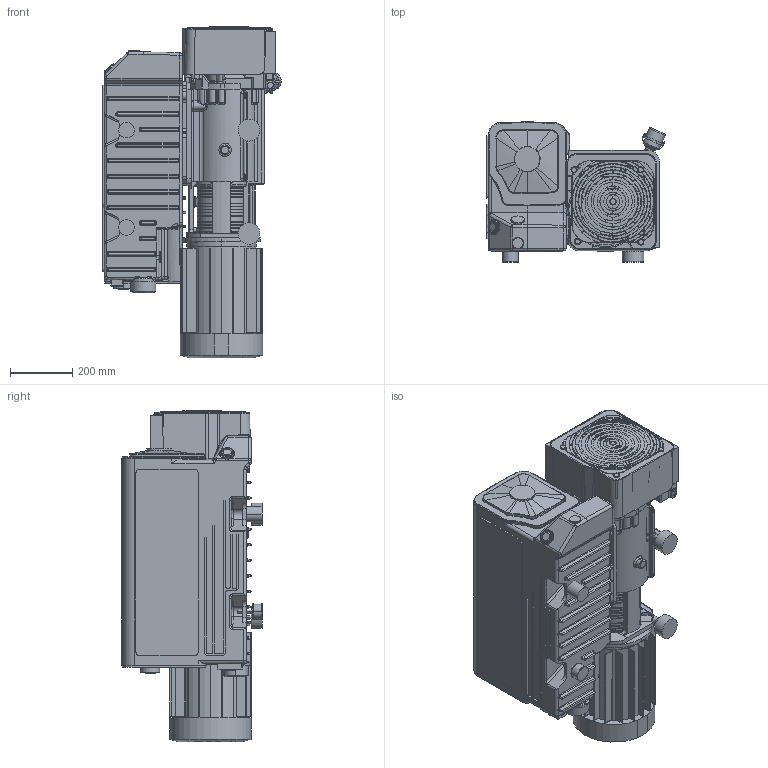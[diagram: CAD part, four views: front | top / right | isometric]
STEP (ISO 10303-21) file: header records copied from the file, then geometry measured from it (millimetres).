
FILE_DESCRIPTION((''),'2;1');
FILE_NAME('PRT0005','2012-07-24T',('LVVCSAVA'),('Copyright by Leybold GmbH'),'PRO/ENGINEER BY PARAMETRIC TECHNOLOGY CORPORATION, 2010430','PRO/ENGINEER BY PARAMETRIC TECHNOLOGY CORPORATION, 2010430','');
FILE_SCHEMA(('AUTOMOTIVE_DESIGN { 1 0 10303 214 1 1 1 1 }'));
Products named in the file (1): PRT0005
Bounding box: 573.37 x 450 x 1064.92 mm (x, y, z)
Surface area: 4487979.1 mm2 (no closed solid volume)
Topology: 0 solids, 1413 shells, 4720 faces, 15016 edges, 11541 vertices
Faces by surface type: plane 2273, cylinder 1376, bspline 591, torus 334, cone 77, sphere 62, extrusion 7
Entity records: 212340 total; most frequent: CARTESIAN_POINT 74176, DIRECTION 27114, ORIENTED_EDGE 22798, EDGE_CURVE 15012, VERTEX_POINT 11541, AXIS2_PLACEMENT_3D 10278, VECTOR 6558, LINE 6551
